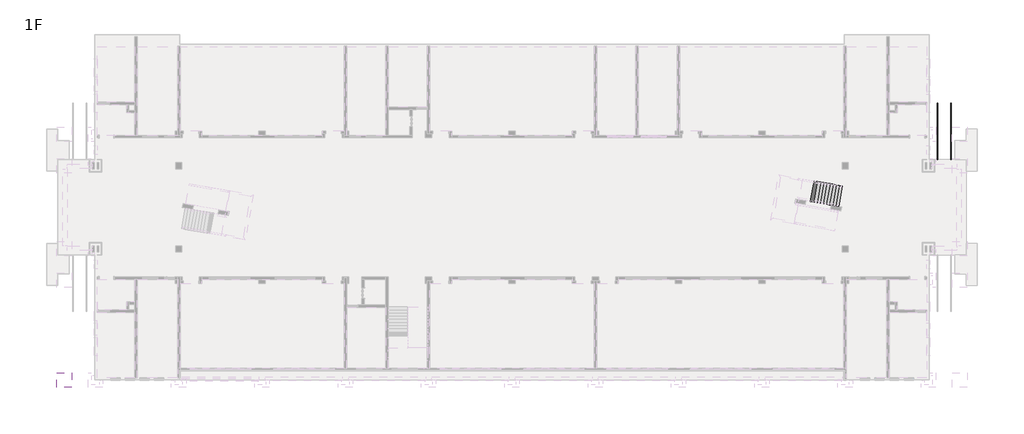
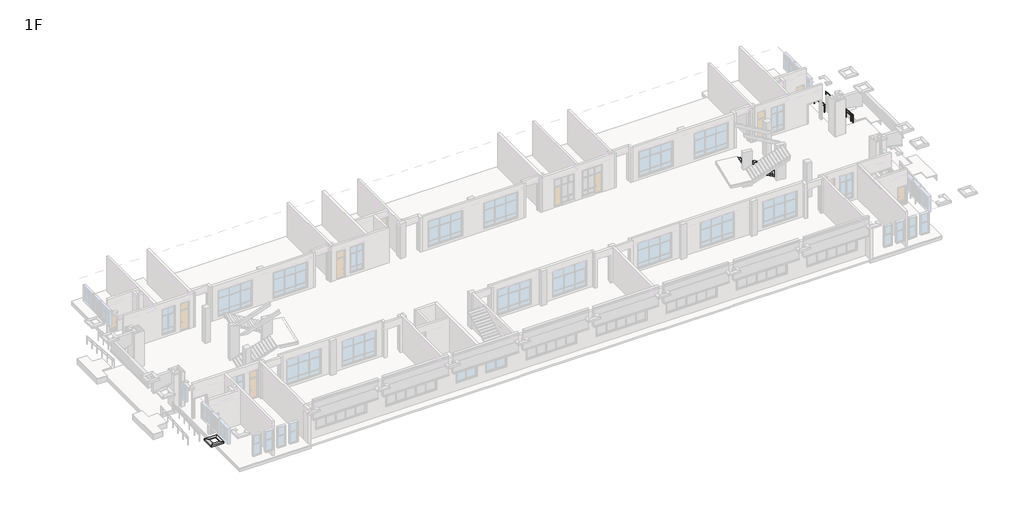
# One storey, part 12 of 16: 2 railings, 1 proxy, 1 stair flight.
"""IFC4 building model written with IfcOpenShell, lengths in millimetres."""

from ifc_helpers import new_model, si_unit, frame, origin, origin_with_axes, place, context, project, spatial, polyline, ellipse_curve, outline, extrude, faceted_brep, element, save
from ifc_brep_helpers import plane_surface, cylinder_surface, advanced_brep

model = new_model("IFC4")

# Units and contexts
model_context = context("Model", 3, world=origin())
ifc_project = project(units=[si_unit("LENGTHUNIT", "METRE", prefix="MILLI")], contexts=[model_context])

# Site, building, storey
site = spatial("IfcSite", under=ifc_project)
building = spatial("IfcBuilding", under=site)
storey = spatial("IfcBuildingStorey", under=building, Name="1F", Elevation=0.0)

# Proxy
placement = place(None, origin())
element("IfcBuildingElementProxy", 1, Name="QS1", ObjectType="QS1", at=placement, inside=storey, context=model_context, shape_type="Brep", body=[
    faceted_brep([(-700.0000001, -700.2993065, 4200.0), (-600.0000001, -600.2993065, 4200.0), (-600.0000001, -600.2993065, 4250.0), (-650.0000001, -650.2993065, 4250.0), (-650.0000001, -650.2993065, 4350.0), (-400.0000001, -400.2993065, 4350.0), (-400.0000001, -400.2993065, 4400.0), (-700.0000001, -700.2993065, 4400.0), (-700.0000001, 699.7006935, 4200.0), (-700.0000001, 699.7006935, 4400.0), (-400.0000001, 399.7006935, 4400.0), (-400.0000001, 399.7006935, 4350.0), (-650.0000001, 649.7006935, 4350.0), (-650.0000001, 649.7006935, 4250.0), (-600.0000001, 599.7006935, 4250.0), (-600.0000001, 599.7006935, 4200.0)], [[[0, 1, 2, 3, 4, 5, 6, 7]], [[8, 9, 10, 11, 12, 13, 14, 15]], [[1, 0, 8, 15]], [[2, 1, 15, 14]], [[3, 2, 14, 13]], [[4, 3, 13, 12]], [[5, 4, 12, 11]], [[6, 5, 11, 10]], [[7, 6, 10, 9]], [[0, 7, 9, 8]]]),
    faceted_brep([(-700.0000001, 699.7006935, 4200.0), (-600.0000001, 599.7006935, 4200.0), (-600.0000001, 599.7006935, 4250.0), (-650.0000001, 649.7006935, 4250.0), (-650.0000001, 649.7006935, 4350.0), (-400.0000001, 399.7006935, 4350.0), (-400.0000001, 399.7006935, 4400.0), (-700.0000001, 699.7006935, 4400.0), (700.0, 699.7006935, 4200.0), (700.0, 699.7006935, 4400.0), (400.0, 399.7006935, 4400.0), (400.0, 399.7006935, 4350.0), (650.0, 649.7006935, 4350.0), (650.0, 649.7006935, 4250.0), (600.0, 599.7006935, 4250.0), (600.0, 599.7006935, 4200.0)], [[[0, 1, 2, 3, 4, 5, 6, 7]], [[8, 9, 10, 11, 12, 13, 14, 15]], [[1, 0, 8, 15]], [[2, 1, 15, 14]], [[3, 2, 14, 13]], [[4, 3, 13, 12]], [[5, 4, 12, 11]], [[6, 5, 11, 10]], [[7, 6, 10, 9]], [[0, 7, 9, 8]]]),
    faceted_brep([(700.0, -700.2993065, 4200.0), (600.0, -600.2993065, 4200.0), (600.0, -600.2993065, 4250.0), (650.0, -650.2993065, 4250.0), (650.0, -650.2993065, 4350.0), (400.0, -400.2993065, 4350.0), (400.0, -400.2993065, 4400.0), (700.0, -700.2993065, 4400.0), (-700.0000001, -700.2993065, 4200.0), (-700.0000001, -700.2993065, 4400.0), (-400.0000001, -400.2993065, 4400.0), (-400.0000001, -400.2993065, 4350.0), (-650.0000001, -650.2993065, 4350.0), (-650.0000001, -650.2993065, 4250.0), (-600.0000001, -600.2993065, 4250.0), (-600.0000001, -600.2993065, 4200.0)], [[[0, 1, 2, 3, 4, 5, 6, 7]], [[8, 9, 10, 11, 12, 13, 14, 15]], [[1, 0, 8, 15]], [[2, 1, 15, 14]], [[3, 2, 14, 13]], [[4, 3, 13, 12]], [[5, 4, 12, 11]], [[6, 5, 11, 10]], [[7, 6, 10, 9]], [[0, 7, 9, 8]]]),
    faceted_brep([(700.0, 699.7006935, 4200.0), (600.0, 599.7006935, 4200.0), (600.0, 599.7006935, 4250.0), (650.0, 649.7006935, 4250.0), (650.0, 649.7006935, 4350.0), (400.0, 399.7006935, 4350.0), (400.0, 399.7006935, 4400.0), (700.0, 699.7006935, 4400.0), (700.0, -700.2993065, 4200.0), (700.0, -700.2993065, 4400.0), (400.0, -400.2993065, 4400.0), (400.0, -400.2993065, 4350.0), (650.0, -650.2993065, 4350.0), (650.0, -650.2993065, 4250.0), (600.0, -600.2993065, 4250.0), (600.0, -600.2993065, 4200.0)], [[[0, 1, 2, 3, 4, 5, 6, 7]], [[8, 9, 10, 11, 12, 13, 14, 15]], [[1, 0, 8, 15]], [[2, 1, 15, 14]], [[3, 2, 14, 13]], [[4, 3, 13, 12]], [[5, 4, 12, 11]], [[6, 5, 11, 10]], [[7, 6, 10, 9]], [[0, 7, 9, 8]]]),
])

# Railings
element("IfcRailing", 2, ObjectType="教学楼 – 无障碍坡道扶手 – 1000mm", at=placement, inside=storey, context=model_context, shape_type="AdvancedBrep", body=[
    advanced_brep(
    [(85130.0, 26600.0, 529.9306757), (85170.0, 26600.0, 529.9306757), (85130.0, 21200.0, 979.9306757), (85170.0, 21200.0, 979.9306757)],
    [
        (0, 1, ellipse_curve(frame((85150.0, 26600.0, 529.9306757), z_axis=(0.0, 1.0, 0.0), x_axis=(0.0, 0.0, -1.0)), 20.0693243, 20.0)),
        (1, 0, ellipse_curve(frame((85150.0, 26600.0, 529.9306757), z_axis=(0.0, 1.0, 0.0), x_axis=(0.0, 0.0, -1.0)), 20.0693243, 20.0)),
        (2, 3, ellipse_curve(frame((85150.0, 21200.0, 979.9306757), z_axis=(0.0, -1.0, 0.0), x_axis=(0.0, 0.0, -1.0)), 20.0693243, 20.0)),
        (3, 2, ellipse_curve(frame((85150.0, 21200.0, 979.9306757), z_axis=(0.0, -1.0, 0.0), x_axis=(0.0, 0.0, -1.0)), 20.0693243, 20.0)),
        (0, 2),
        (3, 1),
    ],
    [
        plane_surface(frame((85150.0, 26600.0, 550.0), z_axis=(0.0, 1.0, 0.0), x_axis=(0.0, 0.0, -1.0))),
        plane_surface(frame((85150.0, 21200.0, 1000.0), z_axis=(0.0, -1.0, 0.0), x_axis=(0.0, 0.0, -1.0))),
        cylinder_surface(frame((85150.0, 26598.3390904, 530.0690848), z_axis=(0.0, 0.9965457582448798, -0.08304547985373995), x_axis=(1.0, 0.0, 0.0)), 20.0),
    ],
    [
        (0, [[1, 2]]),
        (1, [[3, 4]]),
        (2, [[-1, 5, -4, 6]]),
        (2, [[-2, -6, -3, -5]]),
    ],
),
    advanced_brep(
    [(85135.0, 26600.0, 234.9480068), (85165.0, 26600.0, 234.9480068), (85135.0, 21200.0, 684.9480068), (85165.0, 21200.0, 684.9480068)],
    [
        (0, 1, ellipse_curve(frame((85150.0, 26600.0, 234.9480068), z_axis=(0.0, 1.0, 0.0), x_axis=(0.0, 0.0, -1.0)), 15.0519932, 15.0)),
        (1, 0, ellipse_curve(frame((85150.0, 26600.0, 234.9480068), z_axis=(0.0, 1.0, 0.0), x_axis=(0.0, 0.0, -1.0)), 15.0519932, 15.0)),
        (2, 3, ellipse_curve(frame((85150.0, 21200.0, 684.9480068), z_axis=(0.0, -1.0, 0.0), x_axis=(0.0, 0.0, -1.0)), 15.0519932, 15.0)),
        (3, 2, ellipse_curve(frame((85150.0, 21200.0, 684.9480068), z_axis=(0.0, -1.0, 0.0), x_axis=(0.0, 0.0, -1.0)), 15.0519932, 15.0)),
        (1, 3),
        (2, 0),
    ],
    [
        plane_surface(frame((85150.0, 26600.0, 250.0), z_axis=(0.0, 1.0, 0.0), x_axis=(0.0, 0.0, -1.0))),
        plane_surface(frame((85150.0, 21200.0, 700.0), z_axis=(0.0, -1.0, 0.0), x_axis=(0.0, 0.0, -1.0))),
        cylinder_surface(frame((85150.0, 26598.7543178, 235.0518136), z_axis=(0.0, 0.9965457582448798, -0.08304547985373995), x_axis=(1.0, 0.0, 0.0)), 15.0),
    ],
    [
        (0, [[1, 2]]),
        (1, [[3, 4]]),
        (2, [[-2, 5, -3, 6]]),
        (2, [[-1, -6, -4, -5]]),
    ],
),
    advanced_brep(
    [(85162.5, 21600.0, 926.5280181), (85137.5, 21600.0, 926.5280181), (85137.5, 21600.0, -33.3333333), (85162.5, 21600.0, -33.3333333)],
    [
        (0, 1, ellipse_curve(frame((85150.0, 21600.0, 926.5280181), z_axis=(0.0, -0.08304547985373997, -0.9965457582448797), x_axis=(0.0, -0.9965457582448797, 0.0830454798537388)), 12.5433277, 12.5)),
        (1, 2),
        (2, 3, ellipse_curve(frame((85150.0, 21600.0, -33.3333333), z_axis=(0.0, 0.08304547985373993, 0.9965457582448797), x_axis=(0.0, -0.9965457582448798, 0.08304547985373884)), 12.5433277, 12.5)),
        (3, 0),
        (3, 2, ellipse_curve(frame((85150.0, 21600.0, -33.3333333), z_axis=(0.0, 0.08304547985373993, 0.9965457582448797), x_axis=(0.0, -0.9965457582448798, 0.08304547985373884)), 12.5433277, 12.5)),
        (1, 0, ellipse_curve(frame((85150.0, 21600.0, 926.5280181), z_axis=(0.0, -0.08304547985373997, -0.9965457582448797), x_axis=(0.0, -0.9965457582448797, 0.0830454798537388)), 12.5433277, 12.5)),
    ],
    [
        cylinder_surface(frame((85150.0, 21600.0, -133.3333333), z_axis=(0.0, 0.0, 1.0), x_axis=(-1.0, 0.0, 0.0)), 12.5),
        plane_surface(frame((85125.0, 21575.0, 928.6113514), z_axis=(0.0, 0.08304547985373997, 0.9965457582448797), x_axis=(1.0, 0.0, 0.0))),
        plane_surface(frame((85125.0, 21625.0, -35.4166667), z_axis=(0.0, -0.08304547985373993, -0.9965457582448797), x_axis=(1.0, 0.0, 0.0))),
    ],
    [
        (0, [[1, 2, 3, 4]]),
        (0, [[5, -2, 6, -4]]),
        (1, [[-6, -1]]),
        (2, [[-5, -3]]),
    ],
),
    advanced_brep(
    [(85162.5, 22600.0, 843.1946847), (85137.5, 22600.0, 843.1946847), (85137.5, 22600.0, -116.6666667), (85162.5, 22600.0, -116.6666667)],
    [
        (0, 1, ellipse_curve(frame((85150.0, 22600.0, 843.1946847), z_axis=(0.0, -0.08304547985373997, -0.9965457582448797), x_axis=(0.0, -0.9965457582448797, 0.0830454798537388)), 12.5433277, 12.5)),
        (1, 2),
        (2, 3, ellipse_curve(frame((85150.0, 22600.0, -116.6666667), z_axis=(0.0, 0.08304547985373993, 0.9965457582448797), x_axis=(0.0, -0.9965457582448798, 0.08304547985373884)), 12.5433277, 12.5)),
        (3, 0),
        (3, 2, ellipse_curve(frame((85150.0, 22600.0, -116.6666667), z_axis=(0.0, 0.08304547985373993, 0.9965457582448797), x_axis=(0.0, -0.9965457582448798, 0.08304547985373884)), 12.5433277, 12.5)),
        (1, 0, ellipse_curve(frame((85150.0, 22600.0, 843.1946847), z_axis=(0.0, -0.08304547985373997, -0.9965457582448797), x_axis=(0.0, -0.9965457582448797, 0.0830454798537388)), 12.5433277, 12.5)),
    ],
    [
        cylinder_surface(frame((85150.0, 22600.0, -216.6666667), z_axis=(0.0, 0.0, 1.0), x_axis=(-1.0, 0.0, 0.0)), 12.5),
        plane_surface(frame((85125.0, 22575.0, 845.2780181), z_axis=(0.0, 0.08304547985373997, 0.9965457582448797), x_axis=(1.0, 0.0, 0.0))),
        plane_surface(frame((85125.0, 22625.0, -118.75), z_axis=(0.0, -0.08304547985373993, -0.9965457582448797), x_axis=(1.0, 0.0, 0.0))),
    ],
    [
        (0, [[1, 2, 3, 4]]),
        (0, [[5, -2, 6, -4]]),
        (1, [[-6, -1]]),
        (2, [[-5, -3]]),
    ],
),
    advanced_brep(
    [(85162.5, 23600.0, 759.8613514), (85137.5, 23600.0, 759.8613514), (85137.5, 23600.0, -200.0), (85162.5, 23600.0, -200.0)],
    [
        (0, 1, ellipse_curve(frame((85150.0, 23600.0, 759.8613514), z_axis=(0.0, -0.08304547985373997, -0.9965457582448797), x_axis=(0.0, -0.9965457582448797, 0.0830454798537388)), 12.5433277, 12.5)),
        (1, 2),
        (2, 3, ellipse_curve(frame((85150.0, 23600.0, -200.0), z_axis=(0.0, 0.08304547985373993, 0.9965457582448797), x_axis=(0.0, -0.9965457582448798, 0.08304547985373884)), 12.5433277, 12.5)),
        (3, 0),
        (3, 2, ellipse_curve(frame((85150.0, 23600.0, -200.0), z_axis=(0.0, 0.08304547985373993, 0.9965457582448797), x_axis=(0.0, -0.9965457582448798, 0.08304547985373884)), 12.5433277, 12.5)),
        (1, 0, ellipse_curve(frame((85150.0, 23600.0, 759.8613514), z_axis=(0.0, -0.08304547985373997, -0.9965457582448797), x_axis=(0.0, -0.9965457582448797, 0.0830454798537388)), 12.5433277, 12.5)),
    ],
    [
        cylinder_surface(frame((85150.0, 23600.0, -300.0), z_axis=(0.0, 0.0, 1.0), x_axis=(-1.0, 0.0, 0.0)), 12.5),
        plane_surface(frame((85125.0, 23575.0, 761.9446847), z_axis=(0.0, 0.08304547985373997, 0.9965457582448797), x_axis=(1.0, 0.0, 0.0))),
        plane_surface(frame((85125.0, 23625.0, -202.0833333), z_axis=(0.0, -0.08304547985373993, -0.9965457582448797), x_axis=(1.0, 0.0, 0.0))),
    ],
    [
        (0, [[1, 2, 3, 4]]),
        (0, [[5, -2, 6, -4]]),
        (1, [[-6, -1]]),
        (2, [[-5, -3]]),
    ],
),
    advanced_brep(
    [(85162.5, 24600.0, 676.5280181), (85137.5, 24600.0, 676.5280181), (85137.5, 24600.0, -283.3333333), (85162.5, 24600.0, -283.3333333)],
    [
        (0, 1, ellipse_curve(frame((85150.0, 24600.0, 676.5280181), z_axis=(0.0, -0.08304547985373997, -0.9965457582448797), x_axis=(0.0, -0.9965457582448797, 0.0830454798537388)), 12.5433277, 12.5)),
        (1, 2),
        (2, 3, ellipse_curve(frame((85150.0, 24600.0, -283.3333333), z_axis=(0.0, 0.08304547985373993, 0.9965457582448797), x_axis=(0.0, -0.9965457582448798, 0.08304547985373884)), 12.5433277, 12.5)),
        (3, 0),
        (3, 2, ellipse_curve(frame((85150.0, 24600.0, -283.3333333), z_axis=(0.0, 0.08304547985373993, 0.9965457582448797), x_axis=(0.0, -0.9965457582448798, 0.08304547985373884)), 12.5433277, 12.5)),
        (1, 0, ellipse_curve(frame((85150.0, 24600.0, 676.5280181), z_axis=(0.0, -0.08304547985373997, -0.9965457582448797), x_axis=(0.0, -0.9965457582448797, 0.0830454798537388)), 12.5433277, 12.5)),
    ],
    [
        cylinder_surface(frame((85150.0, 24600.0, -383.3333333), z_axis=(0.0, 0.0, 1.0), x_axis=(-1.0, 0.0, 0.0)), 12.5),
        plane_surface(frame((85125.0, 24575.0, 678.6113514), z_axis=(0.0, 0.08304547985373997, 0.9965457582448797), x_axis=(1.0, 0.0, 0.0))),
        plane_surface(frame((85125.0, 24625.0, -285.4166667), z_axis=(0.0, -0.08304547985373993, -0.9965457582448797), x_axis=(1.0, 0.0, 0.0))),
    ],
    [
        (0, [[1, 2, 3, 4]]),
        (0, [[5, -2, 6, -4]]),
        (1, [[-6, -1]]),
        (2, [[-5, -3]]),
    ],
),
    advanced_brep(
    [(85162.5, 25600.0, 593.1946847), (85137.5, 25600.0, 593.1946847), (85137.5, 25600.0, -366.6666667), (85162.5, 25600.0, -366.6666667)],
    [
        (0, 1, ellipse_curve(frame((85150.0, 25600.0, 593.1946847), z_axis=(0.0, -0.08304547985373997, -0.9965457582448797), x_axis=(0.0, -0.9965457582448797, 0.0830454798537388)), 12.5433277, 12.5)),
        (1, 2),
        (2, 3, ellipse_curve(frame((85150.0, 25600.0, -366.6666667), z_axis=(0.0, 0.08304547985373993, 0.9965457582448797), x_axis=(0.0, -0.9965457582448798, 0.08304547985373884)), 12.5433277, 12.5)),
        (3, 0),
        (3, 2, ellipse_curve(frame((85150.0, 25600.0, -366.6666667), z_axis=(0.0, 0.08304547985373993, 0.9965457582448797), x_axis=(0.0, -0.9965457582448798, 0.08304547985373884)), 12.5433277, 12.5)),
        (1, 0, ellipse_curve(frame((85150.0, 25600.0, 593.1946847), z_axis=(0.0, -0.08304547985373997, -0.9965457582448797), x_axis=(0.0, -0.9965457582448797, 0.0830454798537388)), 12.5433277, 12.5)),
    ],
    [
        cylinder_surface(frame((85150.0, 25600.0, -466.6666667), z_axis=(0.0, 0.0, 1.0), x_axis=(-1.0, 0.0, 0.0)), 12.5),
        plane_surface(frame((85125.0, 25575.0, 595.2780181), z_axis=(0.0, 0.08304547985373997, 0.9965457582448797), x_axis=(1.0, 0.0, 0.0))),
        plane_surface(frame((85125.0, 25625.0, -368.75), z_axis=(0.0, -0.08304547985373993, -0.9965457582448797), x_axis=(1.0, 0.0, 0.0))),
    ],
    [
        (0, [[1, 2, 3, 4]]),
        (0, [[5, -2, 6, -4]]),
        (1, [[-6, -1]]),
        (2, [[-5, -3]]),
    ],
),
    advanced_brep(
    [(85162.5, 21212.5, 958.8196847), (85137.5, 21212.5, 958.8196847), (85137.5, 21212.5, -1.0416667), (85162.5, 21212.5, -1.0416667)],
    [
        (0, 1, ellipse_curve(frame((85150.0, 21212.5, 958.8196847), z_axis=(0.0, -0.08304547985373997, -0.9965457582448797), x_axis=(0.0, -0.9965457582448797, 0.0830454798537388)), 12.5433277, 12.5)),
        (1, 2),
        (2, 3, ellipse_curve(frame((85150.0, 21212.5, -1.0416667), z_axis=(0.0, 0.08304547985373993, 0.9965457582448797), x_axis=(0.0, -0.9965457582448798, 0.08304547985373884)), 12.5433277, 12.5)),
        (3, 0),
        (3, 2, ellipse_curve(frame((85150.0, 21212.5, -1.0416667), z_axis=(0.0, 0.08304547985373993, 0.9965457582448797), x_axis=(0.0, -0.9965457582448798, 0.08304547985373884)), 12.5433277, 12.5)),
        (1, 0, ellipse_curve(frame((85150.0, 21212.5, 958.8196847), z_axis=(0.0, -0.08304547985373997, -0.9965457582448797), x_axis=(0.0, -0.9965457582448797, 0.0830454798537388)), 12.5433277, 12.5)),
    ],
    [
        cylinder_surface(frame((85150.0, 21212.5, -101.0416667), z_axis=(0.0, 0.0, 1.0), x_axis=(-1.0, 0.0, 0.0)), 12.5),
        plane_surface(frame((85125.0, 21187.5, 960.9030181), z_axis=(0.0, 0.08304547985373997, 0.9965457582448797), x_axis=(1.0, 0.0, 0.0))),
        plane_surface(frame((85125.0, 21237.5, -3.125), z_axis=(0.0, -0.08304547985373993, -0.9965457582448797), x_axis=(1.0, 0.0, 0.0))),
    ],
    [
        (0, [[1, 2, 3, 4]]),
        (0, [[5, -2, 6, -4]]),
        (1, [[-6, -1]]),
        (2, [[-5, -3]]),
    ],
),
    advanced_brep(
    [(85162.5, 26587.5, 510.9030181), (85137.5, 26587.5, 510.9030181), (85137.5, 26587.5, -448.9583333), (85162.5, 26587.5, -448.9583333)],
    [
        (0, 1, ellipse_curve(frame((85150.0, 26587.5, 510.9030181), z_axis=(0.0, -0.08304547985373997, -0.9965457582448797), x_axis=(0.0, -0.9965457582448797, 0.0830454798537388)), 12.5433277, 12.5)),
        (1, 2),
        (2, 3, ellipse_curve(frame((85150.0, 26587.5, -448.9583333), z_axis=(0.0, 0.08304547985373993, 0.9965457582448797), x_axis=(0.0, -0.9965457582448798, 0.08304547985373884)), 12.5433277, 12.5)),
        (3, 0),
        (3, 2, ellipse_curve(frame((85150.0, 26587.5, -448.9583333), z_axis=(0.0, 0.08304547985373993, 0.9965457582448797), x_axis=(0.0, -0.9965457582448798, 0.08304547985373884)), 12.5433277, 12.5)),
        (1, 0, ellipse_curve(frame((85150.0, 26587.5, 510.9030181), z_axis=(0.0, -0.08304547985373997, -0.9965457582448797), x_axis=(0.0, -0.9965457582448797, 0.0830454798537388)), 12.5433277, 12.5)),
    ],
    [
        cylinder_surface(frame((85150.0, 26587.5, -548.9583333), z_axis=(0.0, 0.0, 1.0), x_axis=(-1.0, 0.0, 0.0)), 12.5),
        plane_surface(frame((85125.0, 26562.5, 512.9863514), z_axis=(0.0, 0.08304547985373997, 0.9965457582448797), x_axis=(1.0, 0.0, 0.0))),
        plane_surface(frame((85125.0, 26612.5, -451.0416667), z_axis=(0.0, -0.08304547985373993, -0.9965457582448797), x_axis=(1.0, 0.0, 0.0))),
    ],
    [
        (0, [[1, 2, 3, 4]]),
        (0, [[5, -2, 6, -4]]),
        (1, [[-6, -1]]),
        (2, [[-5, -3]]),
    ],
),
])
element("IfcRailing", 3, ObjectType="教学楼 – 无障碍坡道扶手 – 1000mm", at=placement, inside=storey, context=model_context, shape_type="AdvancedBrep", body=[
    advanced_brep(
    [(83830.0, 26600.0, 529.9306757), (83870.0, 26600.0, 529.9306757), (83830.0, 21200.0, 979.9306757), (83870.0, 21200.0, 979.9306757)],
    [
        (0, 1, ellipse_curve(frame((83850.0, 26600.0, 529.9306757), z_axis=(0.0, 1.0, 0.0), x_axis=(0.0, 0.0, -1.0)), 20.0693243, 20.0)),
        (1, 0, ellipse_curve(frame((83850.0, 26600.0, 529.9306757), z_axis=(0.0, 1.0, 0.0), x_axis=(0.0, 0.0, -1.0)), 20.0693243, 20.0)),
        (2, 3, ellipse_curve(frame((83850.0, 21200.0, 979.9306757), z_axis=(0.0, -1.0, 0.0), x_axis=(0.0, 0.0, -1.0)), 20.0693243, 20.0)),
        (3, 2, ellipse_curve(frame((83850.0, 21200.0, 979.9306757), z_axis=(0.0, -1.0, 0.0), x_axis=(0.0, 0.0, -1.0)), 20.0693243, 20.0)),
        (0, 2),
        (3, 1),
    ],
    [
        plane_surface(frame((83850.0, 26600.0, 550.0), z_axis=(0.0, 1.0, 0.0), x_axis=(0.0, 0.0, -1.0))),
        plane_surface(frame((83850.0, 21200.0, 1000.0), z_axis=(0.0, -1.0, 0.0), x_axis=(0.0, 0.0, -1.0))),
        cylinder_surface(frame((83850.0, 26598.3390904, 530.0690848), z_axis=(0.0, 0.9965457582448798, -0.08304547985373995), x_axis=(1.0, 0.0, 0.0)), 20.0),
    ],
    [
        (0, [[1, 2]]),
        (1, [[3, 4]]),
        (2, [[-1, 5, -4, 6]]),
        (2, [[-2, -6, -3, -5]]),
    ],
),
    advanced_brep(
    [(83865.0, 26600.0, 234.9480068), (83835.0, 26600.0, 234.9480068), (83865.0, 21200.0, 684.9480068), (83835.0, 21200.0, 684.9480068)],
    [
        (0, 1, ellipse_curve(frame((83850.0, 26600.0, 234.9480068), z_axis=(0.0, 1.0, 0.0), x_axis=(0.0, 0.0, -1.0)), 15.0519932, 15.0)),
        (1, 0, ellipse_curve(frame((83850.0, 26600.0, 234.9480068), z_axis=(0.0, 1.0, 0.0), x_axis=(0.0, 0.0, -1.0)), 15.0519932, 15.0)),
        (2, 3, ellipse_curve(frame((83850.0, 21200.0, 684.9480068), z_axis=(0.0, -1.0, 0.0), x_axis=(0.0, 0.0, -1.0)), 15.0519932, 15.0)),
        (3, 2, ellipse_curve(frame((83850.0, 21200.0, 684.9480068), z_axis=(0.0, -1.0, 0.0), x_axis=(0.0, 0.0, -1.0)), 15.0519932, 15.0)),
        (0, 2),
        (3, 1),
    ],
    [
        plane_surface(frame((83850.0, 26600.0, 250.0), z_axis=(0.0, 1.0, 0.0), x_axis=(0.0, 0.0, -1.0))),
        plane_surface(frame((83850.0, 21200.0, 700.0), z_axis=(0.0, -1.0, 0.0), x_axis=(0.0, 0.0, -1.0))),
        cylinder_surface(frame((83850.0, 26598.7543178, 235.0518136), z_axis=(0.0, 0.9965457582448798, -0.08304547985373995), x_axis=(-1.0, 0.0, 0.0)), 15.0),
    ],
    [
        (0, [[1, 2]]),
        (1, [[3, 4]]),
        (2, [[-1, 5, -4, 6]]),
        (2, [[-2, -6, -3, -5]]),
    ],
),
    advanced_brep(
    [(83837.5, 21600.0, 926.5280181), (83837.5, 21600.0, -33.3333333), (83862.5, 21600.0, -33.3333333), (83862.5, 21600.0, 926.5280181)],
    [
        (0, 1),
        (1, 2, ellipse_curve(frame((83850.0, 21600.0, -33.3333333), z_axis=(0.0, 0.08304547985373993, 0.9965457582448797), x_axis=(0.0, -0.9965457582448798, 0.08304547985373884)), 12.5433277, 12.5)),
        (2, 3),
        (3, 0, ellipse_curve(frame((83850.0, 21600.0, 926.5280181), z_axis=(0.0, -0.08304547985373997, -0.9965457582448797), x_axis=(0.0, -0.9965457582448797, 0.0830454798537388)), 12.5433277, 12.5)),
        (0, 3, ellipse_curve(frame((83850.0, 21600.0, 926.5280181), z_axis=(0.0, -0.08304547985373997, -0.9965457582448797), x_axis=(0.0, -0.9965457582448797, 0.0830454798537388)), 12.5433277, 12.5)),
        (2, 1, ellipse_curve(frame((83850.0, 21600.0, -33.3333333), z_axis=(0.0, 0.08304547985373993, 0.9965457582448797), x_axis=(0.0, -0.9965457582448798, 0.08304547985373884)), 12.5433277, 12.5)),
    ],
    [
        cylinder_surface(frame((83850.0, 21600.0, -133.3333333), z_axis=(0.0, 0.0, 1.0), x_axis=(1.0, 0.0, 0.0)), 12.5),
        plane_surface(frame((83875.0, 21575.0, 928.6113514), z_axis=(0.0, 0.08304547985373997, 0.9965457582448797), x_axis=(-1.0, 0.0, 0.0))),
        plane_surface(frame((83875.0, 21625.0, -35.4166667), z_axis=(0.0, -0.08304547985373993, -0.9965457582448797), x_axis=(-1.0, 0.0, 0.0))),
    ],
    [
        (0, [[1, 2, 3, 4]]),
        (0, [[-1, 5, -3, 6]]),
        (1, [[-4, -5]]),
        (2, [[-2, -6]]),
    ],
),
    advanced_brep(
    [(83837.5, 22600.0, 843.1946847), (83837.5, 22600.0, -116.6666667), (83862.5, 22600.0, -116.6666667), (83862.5, 22600.0, 843.1946847)],
    [
        (0, 1),
        (1, 2, ellipse_curve(frame((83850.0, 22600.0, -116.6666667), z_axis=(0.0, 0.08304547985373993, 0.9965457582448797), x_axis=(0.0, -0.9965457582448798, 0.08304547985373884)), 12.5433277, 12.5)),
        (2, 3),
        (3, 0, ellipse_curve(frame((83850.0, 22600.0, 843.1946847), z_axis=(0.0, -0.08304547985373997, -0.9965457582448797), x_axis=(0.0, -0.9965457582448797, 0.0830454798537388)), 12.5433277, 12.5)),
        (0, 3, ellipse_curve(frame((83850.0, 22600.0, 843.1946847), z_axis=(0.0, -0.08304547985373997, -0.9965457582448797), x_axis=(0.0, -0.9965457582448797, 0.0830454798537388)), 12.5433277, 12.5)),
        (2, 1, ellipse_curve(frame((83850.0, 22600.0, -116.6666667), z_axis=(0.0, 0.08304547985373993, 0.9965457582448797), x_axis=(0.0, -0.9965457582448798, 0.08304547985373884)), 12.5433277, 12.5)),
    ],
    [
        cylinder_surface(frame((83850.0, 22600.0, -216.6666667), z_axis=(0.0, 0.0, 1.0), x_axis=(1.0, 0.0, 0.0)), 12.5),
        plane_surface(frame((83875.0, 22575.0, 845.2780181), z_axis=(0.0, 0.08304547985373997, 0.9965457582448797), x_axis=(-1.0, 0.0, 0.0))),
        plane_surface(frame((83875.0, 22625.0, -118.75), z_axis=(0.0, -0.08304547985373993, -0.9965457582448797), x_axis=(-1.0, 0.0, 0.0))),
    ],
    [
        (0, [[1, 2, 3, 4]]),
        (0, [[-1, 5, -3, 6]]),
        (1, [[-4, -5]]),
        (2, [[-2, -6]]),
    ],
),
    advanced_brep(
    [(83837.5, 23600.0, 759.8613514), (83837.5, 23600.0, -200.0), (83862.5, 23600.0, -200.0), (83862.5, 23600.0, 759.8613514)],
    [
        (0, 1),
        (1, 2, ellipse_curve(frame((83850.0, 23600.0, -200.0), z_axis=(0.0, 0.08304547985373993, 0.9965457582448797), x_axis=(0.0, -0.9965457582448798, 0.08304547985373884)), 12.5433277, 12.5)),
        (2, 3),
        (3, 0, ellipse_curve(frame((83850.0, 23600.0, 759.8613514), z_axis=(0.0, -0.08304547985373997, -0.9965457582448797), x_axis=(0.0, -0.9965457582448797, 0.0830454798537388)), 12.5433277, 12.5)),
        (0, 3, ellipse_curve(frame((83850.0, 23600.0, 759.8613514), z_axis=(0.0, -0.08304547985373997, -0.9965457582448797), x_axis=(0.0, -0.9965457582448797, 0.0830454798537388)), 12.5433277, 12.5)),
        (2, 1, ellipse_curve(frame((83850.0, 23600.0, -200.0), z_axis=(0.0, 0.08304547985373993, 0.9965457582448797), x_axis=(0.0, -0.9965457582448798, 0.08304547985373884)), 12.5433277, 12.5)),
    ],
    [
        cylinder_surface(frame((83850.0, 23600.0, -300.0), z_axis=(0.0, 0.0, 1.0), x_axis=(1.0, 0.0, 0.0)), 12.5),
        plane_surface(frame((83875.0, 23575.0, 761.9446847), z_axis=(0.0, 0.08304547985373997, 0.9965457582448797), x_axis=(-1.0, 0.0, 0.0))),
        plane_surface(frame((83875.0, 23625.0, -202.0833333), z_axis=(0.0, -0.08304547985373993, -0.9965457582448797), x_axis=(-1.0, 0.0, 0.0))),
    ],
    [
        (0, [[1, 2, 3, 4]]),
        (0, [[-1, 5, -3, 6]]),
        (1, [[-4, -5]]),
        (2, [[-2, -6]]),
    ],
),
    advanced_brep(
    [(83837.5, 24600.0, 676.5280181), (83837.5, 24600.0, -283.3333333), (83862.5, 24600.0, -283.3333333), (83862.5, 24600.0, 676.5280181)],
    [
        (0, 1),
        (1, 2, ellipse_curve(frame((83850.0, 24600.0, -283.3333333), z_axis=(0.0, 0.08304547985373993, 0.9965457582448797), x_axis=(0.0, -0.9965457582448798, 0.08304547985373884)), 12.5433277, 12.5)),
        (2, 3),
        (3, 0, ellipse_curve(frame((83850.0, 24600.0, 676.5280181), z_axis=(0.0, -0.08304547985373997, -0.9965457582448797), x_axis=(0.0, -0.9965457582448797, 0.0830454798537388)), 12.5433277, 12.5)),
        (0, 3, ellipse_curve(frame((83850.0, 24600.0, 676.5280181), z_axis=(0.0, -0.08304547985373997, -0.9965457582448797), x_axis=(0.0, -0.9965457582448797, 0.0830454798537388)), 12.5433277, 12.5)),
        (2, 1, ellipse_curve(frame((83850.0, 24600.0, -283.3333333), z_axis=(0.0, 0.08304547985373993, 0.9965457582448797), x_axis=(0.0, -0.9965457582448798, 0.08304547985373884)), 12.5433277, 12.5)),
    ],
    [
        cylinder_surface(frame((83850.0, 24600.0, -383.3333333), z_axis=(0.0, 0.0, 1.0), x_axis=(1.0, 0.0, 0.0)), 12.5),
        plane_surface(frame((83875.0, 24575.0, 678.6113514), z_axis=(0.0, 0.08304547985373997, 0.9965457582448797), x_axis=(-1.0, 0.0, 0.0))),
        plane_surface(frame((83875.0, 24625.0, -285.4166667), z_axis=(0.0, -0.08304547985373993, -0.9965457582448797), x_axis=(-1.0, 0.0, 0.0))),
    ],
    [
        (0, [[1, 2, 3, 4]]),
        (0, [[-1, 5, -3, 6]]),
        (1, [[-4, -5]]),
        (2, [[-2, -6]]),
    ],
),
    advanced_brep(
    [(83837.5, 25600.0, 593.1946847), (83837.5, 25600.0, -366.6666667), (83862.5, 25600.0, -366.6666667), (83862.5, 25600.0, 593.1946847)],
    [
        (0, 1),
        (1, 2, ellipse_curve(frame((83850.0, 25600.0, -366.6666667), z_axis=(0.0, 0.08304547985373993, 0.9965457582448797), x_axis=(0.0, -0.9965457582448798, 0.08304547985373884)), 12.5433277, 12.5)),
        (2, 3),
        (3, 0, ellipse_curve(frame((83850.0, 25600.0, 593.1946847), z_axis=(0.0, -0.08304547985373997, -0.9965457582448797), x_axis=(0.0, -0.9965457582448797, 0.0830454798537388)), 12.5433277, 12.5)),
        (0, 3, ellipse_curve(frame((83850.0, 25600.0, 593.1946847), z_axis=(0.0, -0.08304547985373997, -0.9965457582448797), x_axis=(0.0, -0.9965457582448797, 0.0830454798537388)), 12.5433277, 12.5)),
        (2, 1, ellipse_curve(frame((83850.0, 25600.0, -366.6666667), z_axis=(0.0, 0.08304547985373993, 0.9965457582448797), x_axis=(0.0, -0.9965457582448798, 0.08304547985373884)), 12.5433277, 12.5)),
    ],
    [
        cylinder_surface(frame((83850.0, 25600.0, -466.6666667), z_axis=(0.0, 0.0, 1.0), x_axis=(1.0, 0.0, 0.0)), 12.5),
        plane_surface(frame((83875.0, 25575.0, 595.2780181), z_axis=(0.0, 0.08304547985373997, 0.9965457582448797), x_axis=(-1.0, 0.0, 0.0))),
        plane_surface(frame((83875.0, 25625.0, -368.75), z_axis=(0.0, -0.08304547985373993, -0.9965457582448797), x_axis=(-1.0, 0.0, 0.0))),
    ],
    [
        (0, [[1, 2, 3, 4]]),
        (0, [[-1, 5, -3, 6]]),
        (1, [[-4, -5]]),
        (2, [[-2, -6]]),
    ],
),
    advanced_brep(
    [(83837.5, 21212.5, 958.8196847), (83837.5, 21212.5, -1.0416667), (83862.5, 21212.5, -1.0416667), (83862.5, 21212.5, 958.8196847)],
    [
        (0, 1),
        (1, 2, ellipse_curve(frame((83850.0, 21212.5, -1.0416667), z_axis=(0.0, 0.08304547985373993, 0.9965457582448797), x_axis=(0.0, -0.9965457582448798, 0.08304547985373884)), 12.5433277, 12.5)),
        (2, 3),
        (3, 0, ellipse_curve(frame((83850.0, 21212.5, 958.8196847), z_axis=(0.0, -0.08304547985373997, -0.9965457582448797), x_axis=(0.0, -0.9965457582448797, 0.0830454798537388)), 12.5433277, 12.5)),
        (0, 3, ellipse_curve(frame((83850.0, 21212.5, 958.8196847), z_axis=(0.0, -0.08304547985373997, -0.9965457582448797), x_axis=(0.0, -0.9965457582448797, 0.0830454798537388)), 12.5433277, 12.5)),
        (2, 1, ellipse_curve(frame((83850.0, 21212.5, -1.0416667), z_axis=(0.0, 0.08304547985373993, 0.9965457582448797), x_axis=(0.0, -0.9965457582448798, 0.08304547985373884)), 12.5433277, 12.5)),
    ],
    [
        cylinder_surface(frame((83850.0, 21212.5, -101.0416667), z_axis=(0.0, 0.0, 1.0), x_axis=(1.0, 0.0, 0.0)), 12.5),
        plane_surface(frame((83875.0, 21187.5, 960.9030181), z_axis=(0.0, 0.08304547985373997, 0.9965457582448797), x_axis=(-1.0, 0.0, 0.0))),
        plane_surface(frame((83875.0, 21237.5, -3.125), z_axis=(0.0, -0.08304547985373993, -0.9965457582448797), x_axis=(-1.0, 0.0, 0.0))),
    ],
    [
        (0, [[1, 2, 3, 4]]),
        (0, [[-1, 5, -3, 6]]),
        (1, [[-4, -5]]),
        (2, [[-2, -6]]),
    ],
),
    advanced_brep(
    [(83837.5, 26587.5, 510.9030181), (83837.5, 26587.5, -448.9583333), (83862.5, 26587.5, -448.9583333), (83862.5, 26587.5, 510.9030181)],
    [
        (0, 1),
        (1, 2, ellipse_curve(frame((83850.0, 26587.5, -448.9583333), z_axis=(0.0, 0.08304547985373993, 0.9965457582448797), x_axis=(0.0, -0.9965457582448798, 0.08304547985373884)), 12.5433277, 12.5)),
        (2, 3),
        (3, 0, ellipse_curve(frame((83850.0, 26587.5, 510.9030181), z_axis=(0.0, -0.08304547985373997, -0.9965457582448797), x_axis=(0.0, -0.9965457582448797, 0.0830454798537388)), 12.5433277, 12.5)),
        (0, 3, ellipse_curve(frame((83850.0, 26587.5, 510.9030181), z_axis=(0.0, -0.08304547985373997, -0.9965457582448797), x_axis=(0.0, -0.9965457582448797, 0.0830454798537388)), 12.5433277, 12.5)),
        (2, 1, ellipse_curve(frame((83850.0, 26587.5, -448.9583333), z_axis=(0.0, 0.08304547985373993, 0.9965457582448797), x_axis=(0.0, -0.9965457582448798, 0.08304547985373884)), 12.5433277, 12.5)),
    ],
    [
        cylinder_surface(frame((83850.0, 26587.5, -548.9583333), z_axis=(0.0, 0.0, 1.0), x_axis=(1.0, 0.0, 0.0)), 12.5),
        plane_surface(frame((83875.0, 26562.5, 512.9863514), z_axis=(0.0, 0.08304547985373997, 0.9965457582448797), x_axis=(-1.0, 0.0, 0.0))),
        plane_surface(frame((83875.0, 26612.5, -451.0416667), z_axis=(0.0, -0.08304547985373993, -0.9965457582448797), x_axis=(-1.0, 0.0, 0.0))),
    ],
    [
        (0, [[1, 2, 3, 4]]),
        (0, [[-1, 5, -3, 6]]),
        (1, [[-4, -5]]),
        (2, [[-2, -6]]),
    ],
),
])

# Stair flight
element("IfcStairFlight", 4, ObjectType="120mm 结构深度", at=placement, inside=storey, context=model_context, shape_type="SolidModel", body=[
    faceted_brep([(74050.0667413, 16740.4725258, 120.0), (74345.5090672, 16688.3780725, 120.0), (74692.8054225, 18657.9935785, 120.0), (74397.3630966, 18710.0880318, 120.0), (74050.0667413, 16740.4725258, 0.0), (74345.5090672, 16688.3780725, 0.0), (74692.8054225, 18657.9935785, 0.0), (74397.3630966, 18710.0880318, 0.0), (73754.6244154, 16792.5669791, 270.0), (74050.0667413, 16740.4725258, 270.0), (74397.3630966, 18710.0880318, 270.0), (74101.9207707, 18762.1824851, 270.0), (73754.6244154, 16792.5669791, 135.8359214), (74022.1689523, 16745.3916587, 0.0), (74369.4653077, 18715.0071647, 0.0), (74101.9207707, 18762.1824851, 135.8359214), (73459.1820895, 16844.6614324, 420.0), (73754.6244154, 16792.5669791, 420.0), (74101.9207707, 18762.1824851, 420.0), (73806.4784448, 18814.2769384, 420.0), (73459.1820895, 16844.6614324, 285.8359214), (73806.4784448, 18814.2769384, 285.8359214), (73163.7397636, 16896.7558857, 570.0), (73459.1820895, 16844.6614324, 570.0), (73806.4784448, 18814.2769384, 570.0), (73511.0361189, 18866.3713917, 570.0), (73163.7397636, 16896.7558857, 435.8359214), (73511.0361189, 18866.3713917, 435.8359214), (72868.2974377, 16948.850339, 720.0), (73163.7397636, 16896.7558857, 720.0), (73511.0361189, 18866.3713917, 720.0), (73215.593793, 18918.465845, 720.0), (72868.2974377, 16948.850339, 585.8359214), (73215.593793, 18918.465845, 585.8359214), (72572.8551118, 17000.9447923, 870.0), (72868.2974377, 16948.850339, 870.0), (73215.593793, 18918.465845, 870.0), (72920.1514671, 18970.5602983, 870.0), (72572.8551118, 17000.9447923, 735.8359214), (72920.1514671, 18970.5602983, 735.8359214), (72277.4127859, 17053.0392456, 1020.0), (72572.8551118, 17000.9447923, 1020.0), (72920.1514671, 18970.5602983, 1020.0), (72624.7091412, 19022.6547516, 1020.0), (72277.4127859, 17053.0392456, 885.8359214), (72624.7091412, 19022.6547516, 885.8359214), (71981.9704599, 17105.1336989, 1170.0), (72277.4127859, 17053.0392456, 1170.0), (72624.7091412, 19022.6547516, 1170.0), (72329.2668153, 19074.7492049, 1170.0), (71981.9704599, 17105.1336989, 1035.8359214), (72329.2668153, 19074.7492049, 1035.8359214), (71686.528134, 17157.2281522, 1320.0), (71981.9704599, 17105.1336989, 1320.0), (72329.2668153, 19074.7492049, 1320.0), (72033.8244894, 19126.8436582, 1320.0), (71686.528134, 17157.2281522, 1185.8359214), (72033.8244894, 19126.8436582, 1185.8359214), (71391.0858081, 17209.3226055, 1470.0), (71686.528134, 17157.2281522, 1470.0), (72033.8244894, 19126.8436582, 1470.0), (71738.3821635, 19178.9381115, 1470.0), (71391.0858081, 17209.3226055, 1335.8359214), (71738.3821635, 19178.9381115, 1335.8359214), (71095.6434822, 17261.4170588, 1620.0), (71391.0858081, 17209.3226055, 1620.0), (71738.3821635, 19178.9381115, 1620.0), (71442.9398376, 19231.0325648, 1620.0), (71095.6434822, 17261.4170588, 1485.8359214), (71442.9398376, 19231.0325648, 1485.8359214), (70800.2011563, 17313.5115121, 1770.0), (71095.6434822, 17261.4170588, 1770.0), (71442.9398376, 19231.0325648, 1770.0), (71147.4975117, 19283.1270181, 1770.0), (70800.2011563, 17313.5115121, 1635.8359214), (71147.4975117, 19283.1270181, 1635.8359214), (70504.7588304, 17365.6059654, 1920.0), (70800.2011563, 17313.5115121, 1920.0), (71147.4975117, 19283.1270181, 1920.0), (70881.5994184, 19330.0120261, 1920.0), (70852.0551858, 19335.2214714, 1920.0), (70504.7588304, 17365.6059654, 1785.8359214), (70881.5994184, 19330.0120261, 1770.8359214), (70852.0551858, 19335.2214714, 1785.8359214)], [[[0, 1, 2, 3]], [[1, 0, 4, 5]], [[2, 1, 5, 6]], [[3, 2, 6, 7]], [[8, 9, 10, 11]], [[4, 0, 9, 8, 12, 13]], [[0, 3, 10, 9]], [[3, 7, 14, 15, 11, 10]], [[16, 17, 18, 19]], [[17, 16, 20, 12, 8]], [[8, 11, 18, 17]], [[19, 18, 11, 15, 21]], [[22, 23, 24, 25]], [[23, 22, 26, 20, 16]], [[16, 19, 24, 23]], [[25, 24, 19, 21, 27]], [[28, 29, 30, 31]], [[29, 28, 32, 26, 22]], [[22, 25, 30, 29]], [[31, 30, 25, 27, 33]], [[34, 35, 36, 37]], [[35, 34, 38, 32, 28]], [[28, 31, 36, 35]], [[37, 36, 31, 33, 39]], [[40, 41, 42, 43]], [[41, 40, 44, 38, 34]], [[34, 37, 42, 41]], [[43, 42, 37, 39, 45]], [[46, 47, 48, 49]], [[47, 46, 50, 44, 40]], [[40, 43, 48, 47]], [[49, 48, 43, 45, 51]], [[52, 53, 54, 55]], [[53, 52, 56, 50, 46]], [[46, 49, 54, 53]], [[55, 54, 49, 51, 57]], [[58, 59, 60, 61]], [[59, 58, 62, 56, 52]], [[52, 55, 60, 59]], [[61, 60, 55, 57, 63]], [[64, 65, 66, 67]], [[65, 64, 68, 62, 58]], [[58, 61, 66, 65]], [[67, 66, 61, 63, 69]], [[70, 71, 72, 73]], [[71, 70, 74, 68, 64]], [[64, 67, 72, 71]], [[73, 72, 67, 69, 75]], [[76, 77, 78, 79, 80]], [[77, 76, 81, 74, 70]], [[70, 73, 78, 77]], [[78, 73, 75, 82, 83, 80, 79]], [[76, 80, 83, 81]], [[5, 4, 13, 14, 7, 6]], [[14, 13, 12, 20, 26, 32, 38, 44, 50, 56, 62, 68, 74, 81, 83, 82, 75, 69, 63, 57, 51, 45, 39, 33, 27, 21, 15]]]),
    extrude(outline(polyline([(74692.8054225, 18657.9935785), (74722.3496551, 18652.7841332), (74375.0532998, 16683.1686272), (74345.5090672, 16688.3780725), (74692.8054225, 18657.9935785)])), origin_with_axes(), (0.0, 0.0, 1.0), 120.0),
    extrude(outline(polyline([(74079.6109739, 16735.2630805), (74426.9073292, 18704.8785865), (74722.3496551, 18652.7841332), (74375.0532998, 16683.1686272), (74079.6109739, 16735.2630805)])), frame((0.0, 0.0, 120.0), z_axis=(0.0, 0.0, 1.0), x_axis=(1.0, 0.0, 0.0)), (0.0, 0.0, 1.0), 30.0),
    extrude(outline(polyline([(74397.3630966, 18710.0880318), (74426.9073292, 18704.8785865), (74079.6109739, 16735.2630805), (74050.0667413, 16740.4725258), (74397.3630966, 18710.0880318)])), frame((0.0, 0.0, 120.0), z_axis=(0.0, 0.0, 1.0), x_axis=(1.0, 0.0, 0.0)), (0.0, 0.0, 1.0), 150.0),
    extrude(outline(polyline([(73784.168648, 16787.3575338), (74131.4650033, 18756.9730398), (74426.9073292, 18704.8785865), (74079.6109739, 16735.2630805), (73784.168648, 16787.3575338)])), frame((0.0, 0.0, 270.0), z_axis=(0.0, 0.0, 1.0), x_axis=(1.0, 0.0, 0.0)), (0.0, 0.0, 1.0), 30.0),
    extrude(outline(polyline([(74101.9207707, 18762.1824851), (74131.4650033, 18756.9730398), (73784.168648, 16787.3575338), (73754.6244154, 16792.5669791), (74101.9207707, 18762.1824851)])), frame((0.0, 0.0, 270.0), z_axis=(0.0, 0.0, 1.0), x_axis=(1.0, 0.0, 0.0)), (0.0, 0.0, 1.0), 150.0),
    extrude(outline(polyline([(73488.7263221, 16839.4519871), (73836.0226774, 18809.0674931), (74131.4650033, 18756.9730398), (73784.168648, 16787.3575338), (73488.7263221, 16839.4519871)])), frame((0.0, 0.0, 420.0), z_axis=(0.0, 0.0, 1.0), x_axis=(1.0, 0.0, 0.0)), (0.0, 0.0, 1.0), 30.0),
    extrude(outline(polyline([(73806.4784448, 18814.2769384), (73836.0226774, 18809.0674931), (73488.7263221, 16839.4519871), (73459.1820895, 16844.6614324), (73806.4784448, 18814.2769384)])), frame((0.0, 0.0, 420.0), z_axis=(0.0, 0.0, 1.0), x_axis=(1.0, 0.0, 0.0)), (0.0, 0.0, 1.0), 150.0),
    extrude(outline(polyline([(73193.2839962, 16891.5464404), (73540.5803515, 18861.1619464), (73836.0226774, 18809.0674931), (73488.7263221, 16839.4519871), (73193.2839962, 16891.5464404)])), frame((0.0, 0.0, 570.0), z_axis=(0.0, 0.0, 1.0), x_axis=(1.0, 0.0, 0.0)), (0.0, 0.0, 1.0), 30.0),
    extrude(outline(polyline([(73511.0361189, 18866.3713917), (73540.5803515, 18861.1619464), (73193.2839962, 16891.5464404), (73163.7397636, 16896.7558857), (73511.0361189, 18866.3713917)])), frame((0.0, 0.0, 570.0), z_axis=(0.0, 0.0, 1.0), x_axis=(1.0, 0.0, 0.0)), (0.0, 0.0, 1.0), 150.0),
    extrude(outline(polyline([(72897.8416702, 16943.6408937), (73245.1380256, 18913.2563997), (73540.5803515, 18861.1619464), (73193.2839962, 16891.5464404), (72897.8416702, 16943.6408937)])), frame((0.0, 0.0, 720.0), z_axis=(0.0, 0.0, 1.0), x_axis=(1.0, 0.0, 0.0)), (0.0, 0.0, 1.0), 30.0),
    extrude(outline(polyline([(73215.593793, 18918.465845), (73245.1380256, 18913.2563997), (72897.8416702, 16943.6408937), (72868.2974377, 16948.850339), (73215.593793, 18918.465845)])), frame((0.0, 0.0, 720.0), z_axis=(0.0, 0.0, 1.0), x_axis=(1.0, 0.0, 0.0)), (0.0, 0.0, 1.0), 150.0),
    extrude(outline(polyline([(72602.3993443, 16995.735347), (72949.6956997, 18965.350853), (73245.1380256, 18913.2563997), (72897.8416702, 16943.6408937), (72602.3993443, 16995.735347)])), frame((0.0, 0.0, 870.0), z_axis=(0.0, 0.0, 1.0), x_axis=(1.0, 0.0, 0.0)), (0.0, 0.0, 1.0), 30.0),
    extrude(outline(polyline([(72920.1514671, 18970.5602983), (72949.6956997, 18965.350853), (72602.3993443, 16995.735347), (72572.8551118, 17000.9447923), (72920.1514671, 18970.5602983)])), frame((0.0, 0.0, 870.0), z_axis=(0.0, 0.0, 1.0), x_axis=(1.0, 0.0, 0.0)), (0.0, 0.0, 1.0), 150.0),
    extrude(outline(polyline([(72306.9570184, 17047.8298003), (72654.2533738, 19017.4453063), (72949.6956997, 18965.350853), (72602.3993443, 16995.735347), (72306.9570184, 17047.8298003)])), frame((0.0, 0.0, 1020.0), z_axis=(0.0, 0.0, 1.0), x_axis=(1.0, 0.0, 0.0)), (0.0, 0.0, 1.0), 30.0),
    extrude(outline(polyline([(72624.7091412, 19022.6547516), (72654.2533738, 19017.4453063), (72306.9570184, 17047.8298003), (72277.4127859, 17053.0392456), (72624.7091412, 19022.6547516)])), frame((0.0, 0.0, 1020.0), z_axis=(0.0, 0.0, 1.0), x_axis=(1.0, 0.0, 0.0)), (0.0, 0.0, 1.0), 150.0),
    extrude(outline(polyline([(72011.5146925, 17099.9242536), (72358.8110479, 19069.5397596), (72654.2533738, 19017.4453063), (72306.9570184, 17047.8298003), (72011.5146925, 17099.9242536)])), frame((0.0, 0.0, 1170.0), z_axis=(0.0, 0.0, 1.0), x_axis=(1.0, 0.0, 0.0)), (0.0, 0.0, 1.0), 30.0),
    extrude(outline(polyline([(72329.2668153, 19074.7492049), (72358.8110479, 19069.5397596), (72011.5146925, 17099.9242536), (71981.9704599, 17105.1336989), (72329.2668153, 19074.7492049)])), frame((0.0, 0.0, 1170.0), z_axis=(0.0, 0.0, 1.0), x_axis=(1.0, 0.0, 0.0)), (0.0, 0.0, 1.0), 150.0),
    extrude(outline(polyline([(71716.0723666, 17152.0187069), (72063.368722, 19121.6342129), (72358.8110479, 19069.5397596), (72011.5146925, 17099.9242536), (71716.0723666, 17152.0187069)])), frame((0.0, 0.0, 1320.0), z_axis=(0.0, 0.0, 1.0), x_axis=(1.0, 0.0, 0.0)), (0.0, 0.0, 1.0), 30.0),
    extrude(outline(polyline([(72033.8244894, 19126.8436582), (72063.368722, 19121.6342129), (71716.0723666, 17152.0187069), (71686.528134, 17157.2281522), (72033.8244894, 19126.8436582)])), frame((0.0, 0.0, 1320.0), z_axis=(0.0, 0.0, 1.0), x_axis=(1.0, 0.0, 0.0)), (0.0, 0.0, 1.0), 150.0),
    extrude(outline(polyline([(71420.6300407, 17204.1131602), (71767.9263961, 19173.7286662), (72063.368722, 19121.6342129), (71716.0723666, 17152.0187069), (71420.6300407, 17204.1131602)])), frame((0.0, 0.0, 1470.0), z_axis=(0.0, 0.0, 1.0), x_axis=(1.0, 0.0, 0.0)), (0.0, 0.0, 1.0), 30.0),
    extrude(outline(polyline([(71738.3821635, 19178.9381115), (71767.9263961, 19173.7286662), (71420.6300407, 17204.1131602), (71391.0858081, 17209.3226055), (71738.3821635, 19178.9381115)])), frame((0.0, 0.0, 1470.0), z_axis=(0.0, 0.0, 1.0), x_axis=(1.0, 0.0, 0.0)), (0.0, 0.0, 1.0), 150.0),
    extrude(outline(polyline([(71125.1877148, 17256.2076135), (71472.4840702, 19225.8231195), (71767.9263961, 19173.7286662), (71420.6300407, 17204.1131602), (71125.1877148, 17256.2076135)])), frame((0.0, 0.0, 1620.0), z_axis=(0.0, 0.0, 1.0), x_axis=(1.0, 0.0, 0.0)), (0.0, 0.0, 1.0), 30.0),
    extrude(outline(polyline([(71442.9398376, 19231.0325648), (71472.4840702, 19225.8231195), (71125.1877148, 17256.2076135), (71095.6434822, 17261.4170588), (71442.9398376, 19231.0325648)])), frame((0.0, 0.0, 1620.0), z_axis=(0.0, 0.0, 1.0), x_axis=(1.0, 0.0, 0.0)), (0.0, 0.0, 1.0), 150.0),
    extrude(outline(polyline([(70829.7453889, 17308.3020668), (71177.0417443, 19277.9175728), (71472.4840702, 19225.8231195), (71125.1877148, 17256.2076135), (70829.7453889, 17308.3020668)])), frame((0.0, 0.0, 1770.0), z_axis=(0.0, 0.0, 1.0), x_axis=(1.0, 0.0, 0.0)), (0.0, 0.0, 1.0), 30.0),
    extrude(outline(polyline([(71147.4975117, 19283.1270181), (71177.0417443, 19277.9175728), (70829.7453889, 17308.3020668), (70800.2011563, 17313.5115121), (71147.4975117, 19283.1270181)])), frame((0.0, 0.0, 1770.0), z_axis=(0.0, 0.0, 1.0), x_axis=(1.0, 0.0, 0.0)), (0.0, 0.0, 1.0), 150.0),
    extrude(outline(polyline([(70852.0551858, 19335.2214714), (70881.5994184, 19330.0120261), (70534.303063, 17360.3965201), (70504.7588304, 17365.6059654), (70852.0551858, 19335.2214714)])), frame((0.0, 0.0, 1920.0), z_axis=(0.0, 0.0, 1.0), x_axis=(1.0, 0.0, 0.0)), (0.0, 0.0, 1.0), 150.0),
    extrude(outline(polyline([(70534.303063, 17360.3965201), (70881.5994184, 19330.0120261), (71177.0417443, 19277.9175728), (70829.7453889, 17308.3020668), (70534.303063, 17360.3965201)])), frame((0.0, 0.0, 1920.0), z_axis=(0.0, 0.0, 1.0), x_axis=(1.0, 0.0, 0.0)), (0.0, 0.0, 1.0), 30.0),
])

save(model, "model.ifc")
